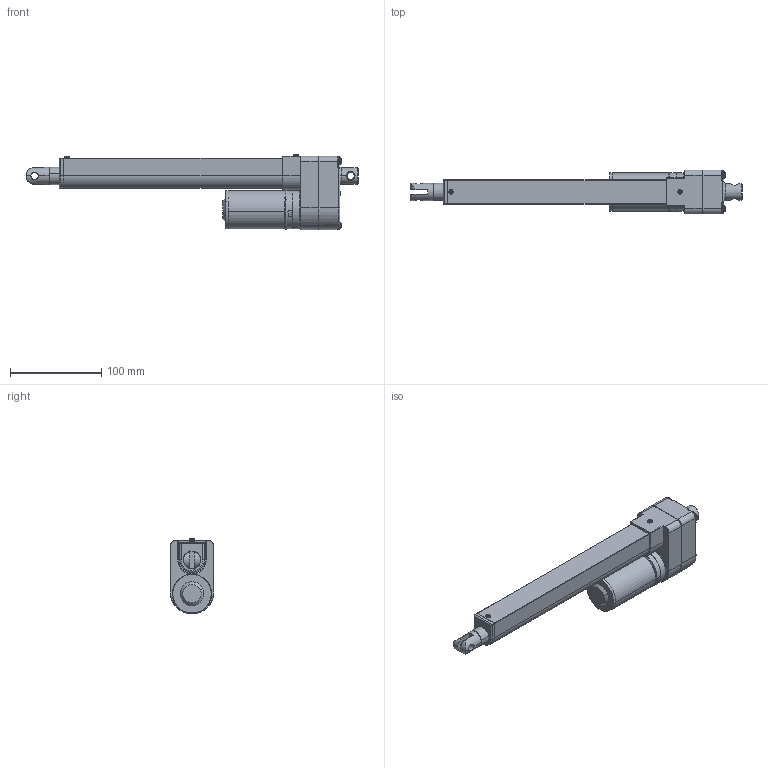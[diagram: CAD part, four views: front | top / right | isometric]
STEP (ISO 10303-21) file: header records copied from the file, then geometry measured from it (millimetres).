
FILE_DESCRIPTION (( 'STEP AP203' ), '1' );
FILE_NAME ('LAS2組合圖_Stroke=200.STEP', '2011-05-16T07:56:52', ( 'MH0164' ), ( '' ), 'SwSTEP 2.0', 'SolidWorks 2009', '' );
FILE_SCHEMA (( 'CONFIG_CONTROL_DESIGN' ));
Length unit declared in the file: millimetre
Products named in the file (1): LAS2組合圖_Stroke=200
Bounding box: 363.4 x 48 x 82.79 mm (x, y, z)
Surface area: 89192.8 mm2 (no closed solid volume)
Topology: 0 solids, 29 shells, 400 faces, 1466 edges, 1032 vertices
Faces by surface type: plane 172, cylinder 95, torus 75, bspline 37, cone 13, sphere 8
Entity records: 19219 total; most frequent: CARTESIAN_POINT 7333, DIRECTION 2345, ORIENTED_EDGE 2269, EDGE_CURVE 1448, VERTEX_POINT 1030, AXIS2_PLACEMENT_3D 818, LINE 709, VECTOR 709
